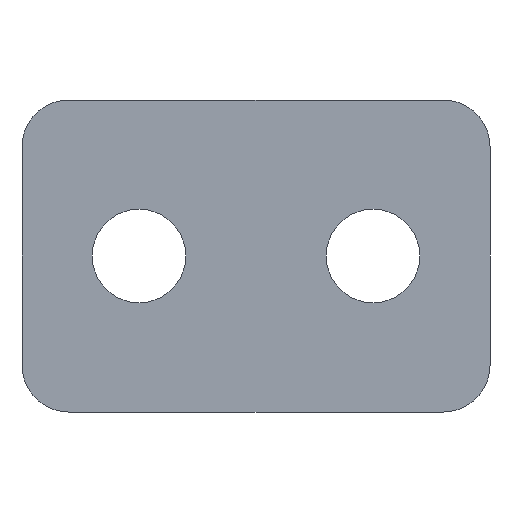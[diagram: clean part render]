
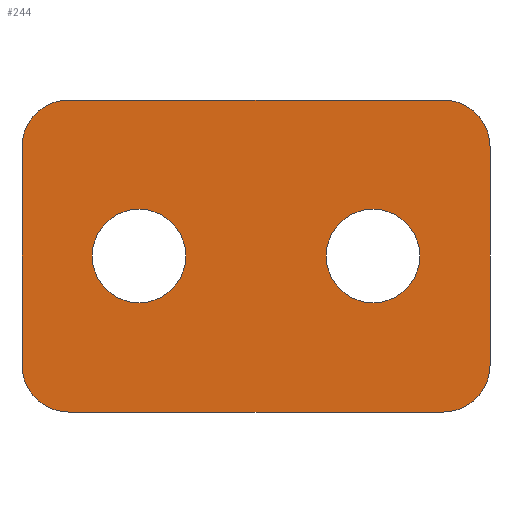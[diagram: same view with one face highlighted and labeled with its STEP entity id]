
A CAD part, front view. The second image highlights one B-rep face of the part: STEP entity #244.
In plain terms, the highlighted planar face has unit normal (0, -1, 0).
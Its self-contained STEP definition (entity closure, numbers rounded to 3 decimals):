
#1=CARTESIAN_POINT('',(-7.5,0.,0.));
#2=DIRECTION('',(0.,-1.,0.));
#3=DIRECTION('',(1.,0.,0.));
#4=AXIS2_PLACEMENT_3D('',#1,#2,#3);
#6=CARTESIAN_POINT('',(-7.5,0.,0.));
#7=DIRECTION('',(0.,-1.,0.));
#8=DIRECTION('',(-1.,0.,0.));
#9=AXIS2_PLACEMENT_3D('',#6,#7,#8);
#11=CARTESIAN_POINT('',(7.5,0.,0.));
#12=DIRECTION('',(0.,-1.,0.));
#13=DIRECTION('',(1.,0.,0.));
#14=AXIS2_PLACEMENT_3D('',#11,#12,#13);
#16=CARTESIAN_POINT('',(7.5,0.,0.));
#17=DIRECTION('',(0.,-1.,0.));
#18=DIRECTION('',(-1.,0.,0.));
#19=AXIS2_PLACEMENT_3D('',#16,#17,#18);
#21=CARTESIAN_POINT('',(-12.,0.,-7.));
#22=DIRECTION('',(0.,-1.,0.));
#23=DIRECTION('',(-1.,0.,0.));
#24=AXIS2_PLACEMENT_3D('',#21,#22,#23);
#26=DIRECTION('',(0.,0.,1.));
#27=VECTOR('',#26,14.);
#28=CARTESIAN_POINT('',(-15.,0.,-7.));
#29=LINE('',#28,#27);
#30=CARTESIAN_POINT('',(-12.,0.,7.));
#31=DIRECTION('',(0.,-1.,0.));
#32=DIRECTION('',(0.,0.,1.));
#33=AXIS2_PLACEMENT_3D('',#30,#31,#32);
#35=DIRECTION('',(1.,0.,0.));
#36=VECTOR('',#35,24.);
#37=CARTESIAN_POINT('',(-12.,0.,10.));
#38=LINE('',#37,#36);
#39=CARTESIAN_POINT('',(12.,0.,7.));
#40=DIRECTION('',(0.,-1.,0.));
#41=DIRECTION('',(1.,0.,0.));
#42=AXIS2_PLACEMENT_3D('',#39,#40,#41);
#44=DIRECTION('',(0.,0.,-1.));
#45=VECTOR('',#44,14.);
#46=CARTESIAN_POINT('',(15.,0.,7.));
#47=LINE('',#46,#45);
#48=CARTESIAN_POINT('',(12.,0.,-7.));
#49=DIRECTION('',(0.,-1.,0.));
#50=DIRECTION('',(0.,0.,-1.));
#51=AXIS2_PLACEMENT_3D('',#48,#49,#50);
#53=DIRECTION('',(-1.,0.,0.));
#54=VECTOR('',#53,24.);
#55=CARTESIAN_POINT('',(12.,0.,-10.));
#56=LINE('',#55,#54);
#161=CARTESIAN_POINT('',(-4.5,0.,0.));
#162=CARTESIAN_POINT('',(-10.5,0.,0.));
#163=VERTEX_POINT('',#161);
#164=VERTEX_POINT('',#162);
#165=CARTESIAN_POINT('',(10.5,0.,0.));
#166=CARTESIAN_POINT('',(4.5,0.,0.));
#167=VERTEX_POINT('',#165);
#168=VERTEX_POINT('',#166);
#177=CARTESIAN_POINT('',(-15.,0.,-7.));
#178=CARTESIAN_POINT('',(-12.,0.,-10.));
#179=VERTEX_POINT('',#177);
#180=VERTEX_POINT('',#178);
#185=CARTESIAN_POINT('',(-12.,0.,10.));
#186=CARTESIAN_POINT('',(-15.,0.,7.));
#187=VERTEX_POINT('',#185);
#188=VERTEX_POINT('',#186);
#193=CARTESIAN_POINT('',(15.,0.,7.));
#194=CARTESIAN_POINT('',(12.,0.,10.));
#195=VERTEX_POINT('',#193);
#196=VERTEX_POINT('',#194);
#201=CARTESIAN_POINT('',(12.,0.,-10.));
#202=CARTESIAN_POINT('',(15.,0.,-7.));
#203=VERTEX_POINT('',#201);
#204=VERTEX_POINT('',#202);
#209=CARTESIAN_POINT('',(0.,0.,0.));
#210=DIRECTION('',(0.,1.,0.));
#211=DIRECTION('',(1.,0.,0.));
#212=AXIS2_PLACEMENT_3D('',#209,#210,#211);
#213=PLANE('',#212);
#215=ORIENTED_EDGE('',*,*,#214,.F.);
#217=ORIENTED_EDGE('',*,*,#216,.T.);
#219=ORIENTED_EDGE('',*,*,#218,.F.);
#221=ORIENTED_EDGE('',*,*,#220,.T.);
#223=ORIENTED_EDGE('',*,*,#222,.F.);
#225=ORIENTED_EDGE('',*,*,#224,.T.);
#227=ORIENTED_EDGE('',*,*,#226,.F.);
#229=ORIENTED_EDGE('',*,*,#228,.T.);
#230=EDGE_LOOP('',(#215,#217,#219,#221,#223,#225,#227,#229));
#231=FACE_OUTER_BOUND('',#230,.F.);
#233=ORIENTED_EDGE('',*,*,#232,.T.);
#235=ORIENTED_EDGE('',*,*,#234,.T.);
#236=EDGE_LOOP('',(#233,#235));
#237=FACE_BOUND('',#236,.F.);
#239=ORIENTED_EDGE('',*,*,#238,.T.);
#241=ORIENTED_EDGE('',*,*,#240,.T.);
#242=EDGE_LOOP('',(#239,#241));
#243=FACE_BOUND('',#242,.F.);
#244=ADVANCED_FACE('',(#231,#237,#243),#213,.F.);
#5=CIRCLE('',#4,3.);
#10=CIRCLE('',#9,3.);
#15=CIRCLE('',#14,3.);
#20=CIRCLE('',#19,3.);
#25=CIRCLE('',#24,3.);
#34=CIRCLE('',#33,3.);
#43=CIRCLE('',#42,3.);
#52=CIRCLE('',#51,3.);
#214=EDGE_CURVE('',#179,#180,#25,.T.);
#216=EDGE_CURVE('',#179,#188,#29,.T.);
#218=EDGE_CURVE('',#187,#188,#34,.T.);
#220=EDGE_CURVE('',#187,#196,#38,.T.);
#222=EDGE_CURVE('',#195,#196,#43,.T.);
#224=EDGE_CURVE('',#195,#204,#47,.T.);
#226=EDGE_CURVE('',#203,#204,#52,.T.);
#228=EDGE_CURVE('',#203,#180,#56,.T.);
#232=EDGE_CURVE('',#167,#168,#15,.T.);
#234=EDGE_CURVE('',#168,#167,#20,.T.);
#238=EDGE_CURVE('',#163,#164,#5,.T.);
#240=EDGE_CURVE('',#164,#163,#10,.T.);
